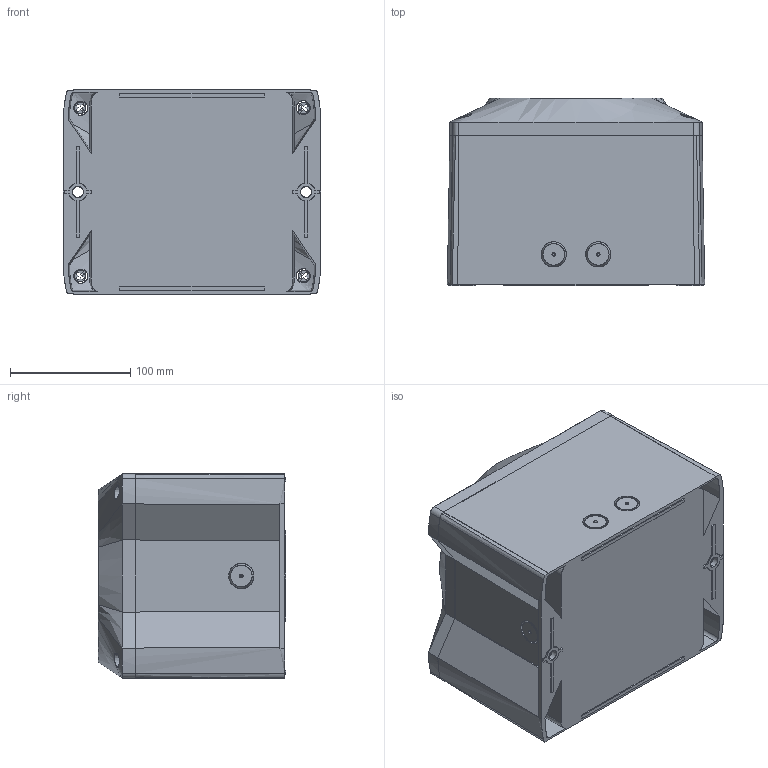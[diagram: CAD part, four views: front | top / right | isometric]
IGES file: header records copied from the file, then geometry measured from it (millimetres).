
Start section: SolidWorks IGES file using analytic representation for surfaces
Global section: file name: L:\3D Volumenmodelle\PATROL_PYRA\PA(X)10\PA10_30305-100.IGS; native system: SolidWorks 2011; preprocessor: SolidWorks 2011; author: MMark; date: 120110.111826; units: millimetre
Bounding box: 214.34 x 156.2 x 170.1 mm (x, y, z)
Surface area: 271947.7 mm2 (no closed solid volume)
Topology: 0 solids, 0 shells, 311 faces, 3954 edges, 3952 vertices
Faces by surface type: bspline 194, revolution 117
